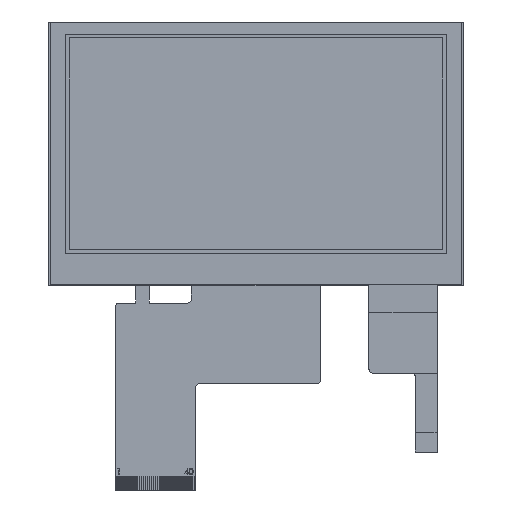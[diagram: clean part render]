
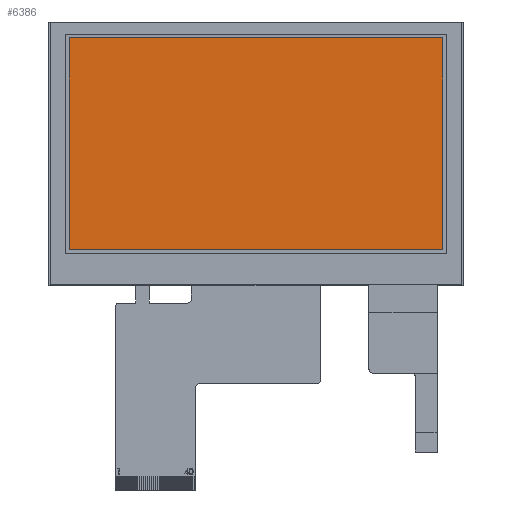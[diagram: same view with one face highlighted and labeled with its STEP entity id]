
A CAD part, top view. The second image highlights one B-rep face of the part: STEP entity #6386.
In plain terms, the highlighted planar face has unit normal (0, 0, 1).
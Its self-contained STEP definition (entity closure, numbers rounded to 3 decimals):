
#299 = DIRECTION ( 'NONE',  ( 1., 0., 0. ) ) ;
#329 = EDGE_CURVE ( 'NONE', #13482, #2392, #12284, .T. ) ;
#333 = AXIS2_PLACEMENT_3D ( 'NONE', #6396, #9656, #299 ) ;
#782 = CARTESIAN_POINT ( 'NONE',  ( 0., -57.84, 0.7 ) ) ;
#857 = ORIENTED_EDGE ( 'NONE', *, *, #7340, .F. ) ;
#1329 = PLANE ( 'NONE',  #333 ) ;
#2319 = VERTEX_POINT ( 'NONE', #10545 ) ;
#2392 = VERTEX_POINT ( 'NONE', #12075 ) ;
#3209 = LINE ( 'NONE', #7588, #5205 ) ;
#3706 = VERTEX_POINT ( 'NONE', #9333 ) ;
#4963 = DIRECTION ( 'NONE',  ( -1., 0., 0. ) ) ;
#5205 = VECTOR ( 'NONE', #7514, 1000. ) ;
#6004 = CARTESIAN_POINT ( 'NONE',  ( 4.9, -57.84, 0.7 ) ) ;
#6386 = ADVANCED_FACE ( 'NONE', ( #7473 ), #1329, .T. ) ;
#6396 = CARTESIAN_POINT ( 'NONE',  ( 0., 0., 0.7 ) ) ;
#6407 = VECTOR ( 'NONE', #4963, 1000. ) ;
#7169 = ORIENTED_EDGE ( 'NONE', *, *, #8344, .F. ) ;
#7340 = EDGE_CURVE ( 'NONE', #3706, #13482, #12166, .T. ) ;
#7473 = FACE_OUTER_BOUND ( 'NONE', #8273, .T. ) ;
#7514 = DIRECTION ( 'NONE',  ( 0., -1., 0. ) ) ;
#7588 = CARTESIAN_POINT ( 'NONE',  ( 99.94, 0., 0.7 ) ) ;
#8152 = CARTESIAN_POINT ( 'NONE',  ( 4.9, 0., 0.7 ) ) ;
#8273 = EDGE_LOOP ( 'NONE', ( #9217, #857, #7169, #9102 ) ) ;
#8344 = EDGE_CURVE ( 'NONE', #2319, #3706, #3209, .T. ) ;
#9102 = ORIENTED_EDGE ( 'NONE', *, *, #9807, .F. ) ;
#9217 = ORIENTED_EDGE ( 'NONE', *, *, #329, .F. ) ;
#9236 = LINE ( 'NONE', #11082, #10881 ) ;
#9333 = CARTESIAN_POINT ( 'NONE',  ( 99.94, -57.84, 0.7 ) ) ;
#9656 = DIRECTION ( 'NONE',  ( 0., 0., 1. ) ) ;
#9807 = EDGE_CURVE ( 'NONE', #2392, #2319, #9236, .T. ) ;
#10392 = VECTOR ( 'NONE', #10721, 1000. ) ;
#10545 = CARTESIAN_POINT ( 'NONE',  ( 99.94, -3.98, 0.7 ) ) ;
#10721 = DIRECTION ( 'NONE',  ( 0., 1., 0. ) ) ;
#10881 = VECTOR ( 'NONE', #13181, 1000. ) ;
#11082 = CARTESIAN_POINT ( 'NONE',  ( 0., -3.98, 0.7 ) ) ;
#12075 = CARTESIAN_POINT ( 'NONE',  ( 4.9, -3.98, 0.7 ) ) ;
#12166 = LINE ( 'NONE', #782, #6407 ) ;
#12284 = LINE ( 'NONE', #8152, #10392 ) ;
#13181 = DIRECTION ( 'NONE',  ( 1., 0., 0. ) ) ;
#13482 = VERTEX_POINT ( 'NONE', #6004 ) ;
